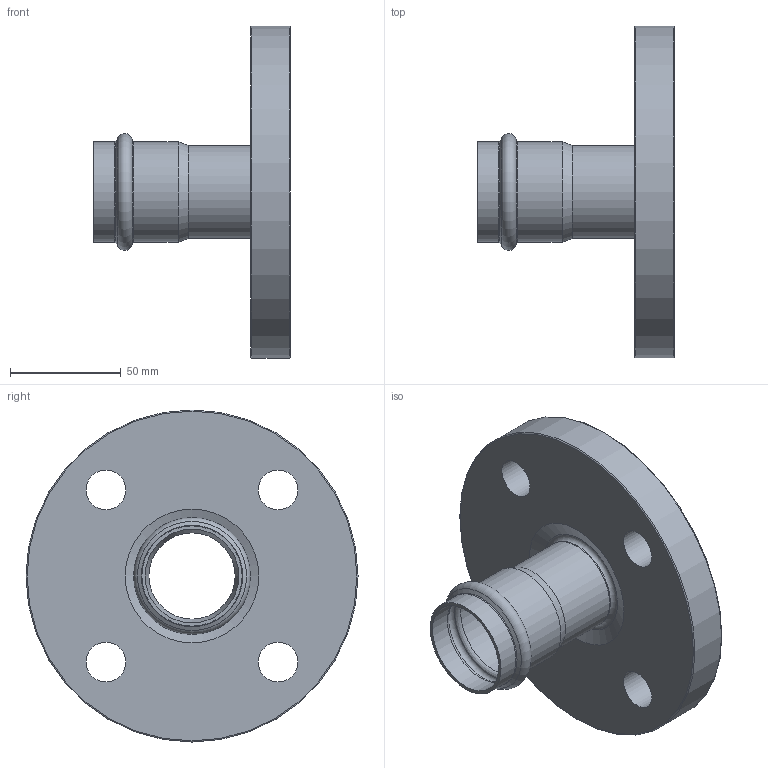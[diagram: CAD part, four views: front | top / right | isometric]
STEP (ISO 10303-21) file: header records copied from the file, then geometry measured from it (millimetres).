
FILE_DESCRIPTION((''),'2;1');
FILE_NAME('G:\Nirosan-Schmiedefeld\Technics\CAD\001 Serie 9.000\042\6VAPF42h(3).stp','2014-11-10T13:58:51',('herberg'),(''),'Autodesk Inventor 2009','Autodesk Inventor 2009','');
FILE_SCHEMA(('AUTOMOTIVE_DESIGN { 1 0 10303 214 1 1 1 1 }'));
Length unit declared in the file: millimetre
Products named in the file (3): 6VAPF42h(3); 69HMF42p(0); 69FL42110p(0)
Assembly tree (2 placements, depth 2):
  6VAPF42h(3)
    69HMF42p(0)
    69FL42110p(0)
Bounding box: 89 x 150 x 150 mm (x, y, z)
Volume: 291380.1 mm3; surface area: 66501.5 mm2
Topology: 2 solids, 2 shells, 32 faces, 65 edges, 38 vertices
Faces by surface type: cylinder 13, cone 5, torus 5, plane 5, bspline 4
Full cylindrical faces by diameter (mm): 18 x4, 39 x2, 42 x2, 42.3 x2, 45.3 x2, 150 x1
Entity records: 950 total; most frequent: CARTESIAN_POINT 285, DIRECTION 138, ORIENTED_EDGE 72, EDGE_LOOP 72, AXIS2_PLACEMENT_3D 69, FACE_BOUND 40, VERTEX_POINT 36, CIRCLE 36
